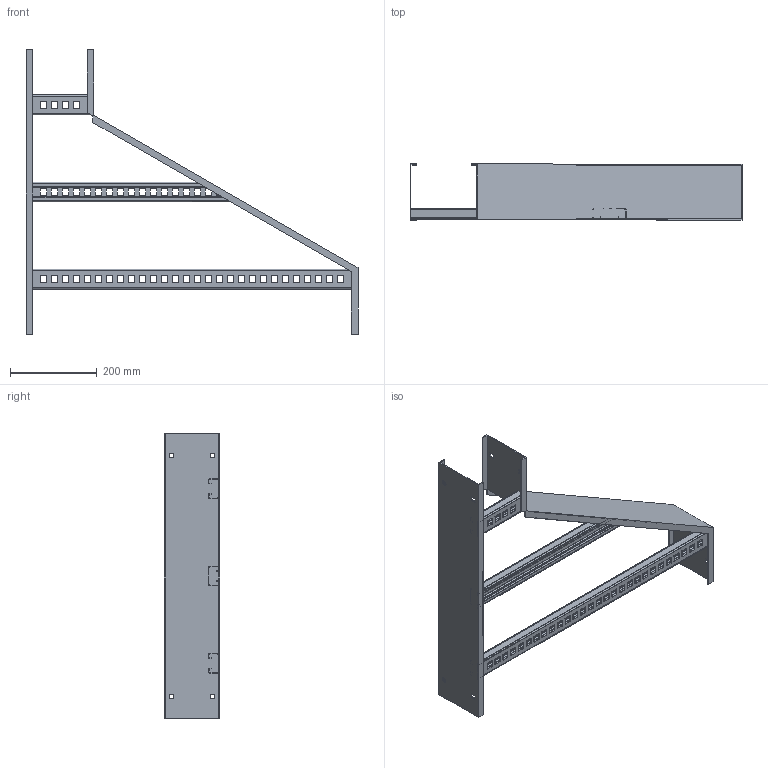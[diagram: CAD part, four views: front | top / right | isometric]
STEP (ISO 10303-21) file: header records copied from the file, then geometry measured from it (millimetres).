
FILE_DESCRIPTION((''),'2;1');
FILE_NAME('AUF53006LHRR_ASM','2010-01-27T',('erouzier'),(''),'PRO/ENGINEER BY PARAMETRIC TECHNOLOGY CORPORATION, 2008510','PRO/ENGINEER BY PARAMETRIC TECHNOLOGY CORPORATION, 2008510','');
FILE_SCHEMA(('CONFIG_CONTROL_DESIGN'));
Length unit declared in the file: inch
Products named in the file (6): CDS013975-5-24; CDS013866-5-240; CDS002159L30-P; CDS002159L24-P_AF1; CDS002159L6-P_AF2; AUF53006LHRR_ASM
Assembly tree (5 placements, depth 2):
  AUF53006LHRR_ASM
    CDS013975-5-24
    CDS013866-5-240
    CDS002159L30-P
    CDS002159L24-P_AF1
    CDS002159L6-P_AF2
Bounding box: 766.57 x 129.03 x 656.75 mm (x, y, z)
Volume: 779776 mm3; surface area: 831071 mm2
Topology: 5 solids, 5 shells, 552 faces, 1620 edges, 1078 vertices
Faces by surface type: plane 323, cylinder 229
Entity records: 18836 total; most frequent: CARTESIAN_POINT 3351, ORIENTED_EDGE 3240, DIRECTION 3182, EDGE_CURVE 1620, VECTOR 1162, LINE 1162, VERTEX_POINT 1078, AXIS2_PLACEMENT_3D 1010
